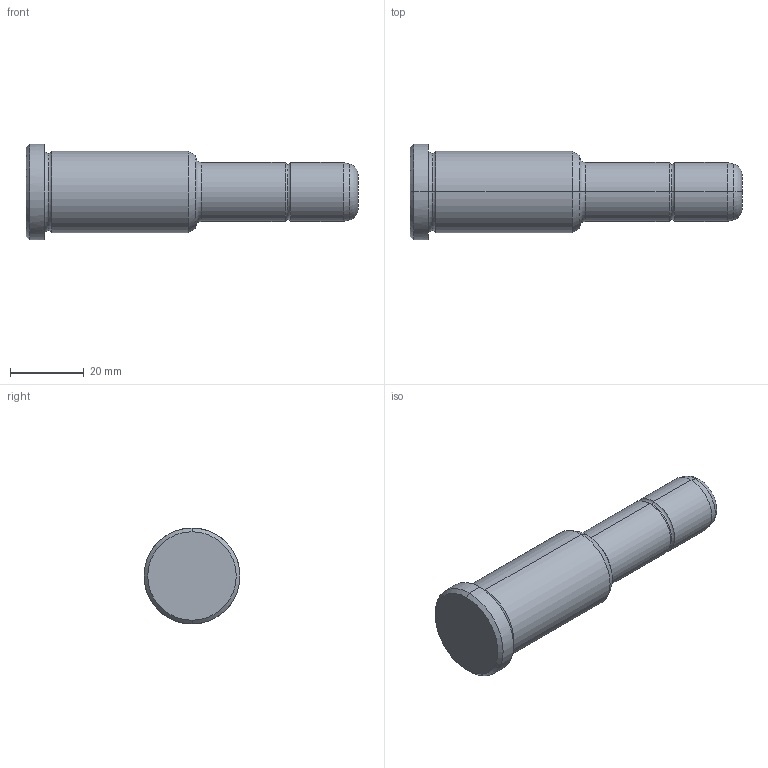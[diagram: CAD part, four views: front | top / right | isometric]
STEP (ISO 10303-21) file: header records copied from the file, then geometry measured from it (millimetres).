
FILE_DESCRIPTION(('CATIA V5 STEP Exchange'),'2;1');
FILE_NAME('C:\Users\Utente\Desktop\IO LAVORO\3D X SITO CF\X SITO\PLASTICA\351\351-16X46X90.stp','2021-08-18T11:24:07+00:00',('none'),('none'),'CATIA Version 5 Release 20 GA (IN-10)','CATIA V5 STEP AP203','none');
FILE_SCHEMA(('CONFIG_CONTROL_DESIGN'));
Length unit declared in the file: millimetre
Products named in the file (1): 351-16X46X90
Bounding box: 90 x 26 x 26 mm (x, y, z)
Volume: 26775.3 mm3; surface area: 6318.8 mm2
Topology: 1 solids, 1 shells, 30 faces, 86 edges, 60 vertices
Faces by surface type: torus 12, cylinder 8, cone 6, plane 4
Entity records: 1112 total; most frequent: CARTESIAN_POINT 289, ORIENTED_EDGE 172, DIRECTION 138, AXIS2_PLACEMENT_3D 95, EDGE_CURVE 86, CIRCLE 64, VERTEX_POINT 60, EDGE_LOOP 32
